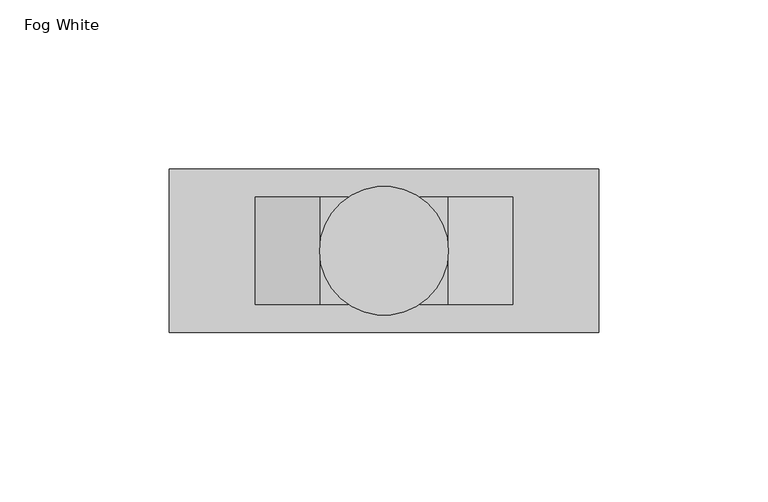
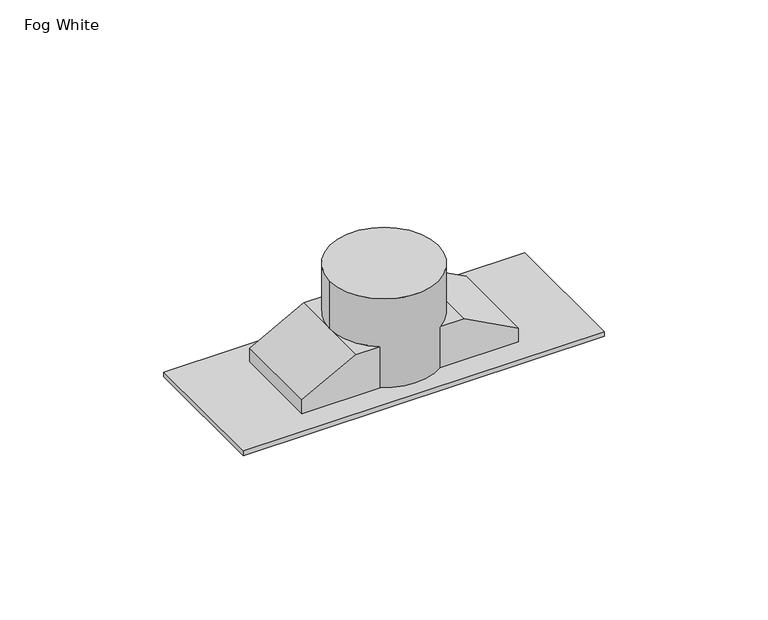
"""IFC4 building model written with IfcOpenShell, lengths in millimetres: proxy geometry, Lamp_Holder-2400_Series-Wiremold : Fog White."""

from ifc_helpers import new_model, si_unit, frame, origin, origin_with_axes, place, context, project, spatial, polyline, circle_curve, outline, extrude, source, transform, mapped, element, save
from ifc_brep_helpers import plane_surface, cylinder_surface, advanced_brep


def fog_white_7784f8a2(model_context):
    return source(origin(), model_context, "Body", "SolidModel", [
        advanced_brep(
        [(-19.05, 0.0, 34.798), (19.05, 0.0, 34.798), (-10.5302837, 15.875, 1.778), (10.5302837, 15.875, 1.778), (38.1, 15.875, 1.778), (38.1, -15.875, 1.778), (10.5302837, -15.875, 1.778), (-10.5302837, -15.875, 1.778), (-38.1, -15.875, 1.778), (-38.1, 15.875, 1.778), (-19.05, 0.0, 17.018), (-10.5302837, -15.875, 17.018), (10.5302837, -15.875, 17.018), (19.05, 0.0, 17.018), (10.5302837, 15.875, 17.018), (-10.5302837, 15.875, 17.018), (-19.05, -15.875, 17.018), (-38.1, -15.875, 6.858), (38.1, -15.875, 6.858), (19.05, -15.875, 17.018), (19.05, 15.875, 17.018), (38.1, 15.875, 6.858), (-38.1, 15.875, 6.858), (-19.05, 15.875, 17.018)],
        [
            (0, 1, circle_curve(frame((0.0, 0.0, 34.798), z_axis=(0.0, 0.0, 1.0), x_axis=(1.0, 0.0, 0.0)), 19.05)),
            (1, 0, circle_curve(frame((0.0, 0.0, 34.798), z_axis=(0.0, 0.0, 1.0), x_axis=(1.0, 0.0, 0.0)), 19.05)),
            (2, 3, circle_curve(frame((0.0, 0.0, 1.778), z_axis=(0.0, 0.0, -1.0), x_axis=(1.0, 0.0, 0.0)), 19.05)),
            (3, 4),
            (4, 5),
            (5, 6),
            (6, 7, circle_curve(frame((0.0, 0.0, 1.778), z_axis=(0.0, 0.0, -1.0), x_axis=(1.0, 0.0, 0.0)), 19.05)),
            (7, 8),
            (8, 9),
            (9, 2),
            (0, 10),
            (10, 11, circle_curve(frame((0.0, 0.0, 17.018), z_axis=(0.0, 0.0, 1.0), x_axis=(1.0, 0.0, 0.0)), 19.05)),
            (11, 7),
            (6, 12),
            (12, 13, circle_curve(frame((0.0, 0.0, 17.018), z_axis=(0.0, 0.0, 1.0), x_axis=(1.0, 0.0, 0.0)), 19.05)),
            (13, 1),
            (13, 14, circle_curve(frame((0.0, 0.0, 17.018), z_axis=(0.0, 0.0, 1.0), x_axis=(1.0, 0.0, 0.0)), 19.05)),
            (14, 3),
            (2, 15),
            (15, 10, circle_curve(frame((0.0, 0.0, 17.018), z_axis=(0.0, 0.0, 1.0), x_axis=(1.0, 0.0, 0.0)), 19.05)),
            (16, 17),
            (17, 8),
            (11, 16),
            (5, 18),
            (18, 19),
            (19, 12),
            (20, 21),
            (21, 4),
            (14, 20),
            (9, 22),
            (22, 23),
            (23, 15),
            (16, 10),
            (10, 23),
            (22, 17),
            (21, 18),
            (20, 13),
            (13, 19),
        ],
        [
            plane_surface(frame((19.05, 0.0, 34.798), z_axis=(0.0, 0.0, 1.0), x_axis=(0.0, 1.0, 0.0))),
            plane_surface(frame((19.05, 0.0, 1.778), z_axis=(0.0, 0.0, -1.0), x_axis=(0.0, -1.0, 0.0))),
            cylinder_surface(frame((0.0, 0.0, 1.778), z_axis=(0.0, 0.0, 1.0), x_axis=(1.0, 0.0, 0.0)), 19.05),
            plane_surface(frame((-38.1, -15.875, 6.858), z_axis=(0.0, -1.0, 0.0), x_axis=(-0.8823529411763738, 0.0, -0.4705882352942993))),
            plane_surface(frame((-38.1, 15.875, 6.858), z_axis=(0.0, 1.0, 0.0), x_axis=(0.8823529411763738, 0.0, 0.4705882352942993))),
            plane_surface(frame((-19.05, -15.875, 17.018), z_axis=(-0.4705882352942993, 0.0, 0.8823529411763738), x_axis=(0.0, 1.0, 0.0))),
            plane_surface(frame((-38.1, -15.875, 6.858), z_axis=(-1.0, 0.0, 0.0), x_axis=(0.0, 1.0, 0.0))),
            plane_surface(frame((38.1, -15.875, 1.778), z_axis=(1.0, 0.0, 0.0), x_axis=(0.0, 1.0, 0.0))),
            plane_surface(frame((38.1, -15.875, 6.858), z_axis=(0.4705882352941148, 0.0, 0.8823529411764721), x_axis=(0.0, 1.0, 0.0))),
            plane_surface(frame((19.05, -15.875, 17.018), z_axis=(0.0, 0.0, 1.0), x_axis=(0.0, 1.0, 0.0))),
        ],
        [
            (0, [[1, 2]]),
            (1, [[3, 4, 5, 6, 7, 8, 9, 10]]),
            (2, [[-1, 11, 12, 13, -7, 14, 15, 16]]),
            (2, [[-2, -16, 17, 18, -3, 19, 20, -11]]),
            (3, [[21, 22, -8, -13, 23]]),
            (3, [[24, 25, 26, -14, -6]]),
            (4, [[27, 28, -4, -18, 29]]),
            (4, [[30, 31, 32, -19, -10]]),
            (5, [[-21, 33, 34, -31, 35]]),
            (6, [[-22, -35, -30, -9]]),
            (7, [[-24, -5, -28, 36]]),
            (8, [[-25, -36, -27, 37, 38]]),
            (9, [[-33, -23, -12]]),
            (9, [[-34, -20, -32]]),
            (9, [[-37, -29, -17]]),
            (9, [[-38, -15, -26]]),
        ],
    ),
        extrude(outline(polyline([(63.5, 24.2062), (63.5, -24.2062), (-63.5, -24.2062), (-63.5, 24.2062), (63.5, 24.2062)])), origin_with_axes(), (0.0, 0.0, 1.0), 1.778),
    ])


if __name__ == "__main__":
    model = new_model("IFC4")
    model_context = context("Model", 3, world=origin())
    ifc_project = project(units=[si_unit("LENGTHUNIT", "METRE", prefix="MILLI")], contexts=[model_context])
    site = spatial("IfcSite", under=ifc_project)
    building = spatial("IfcBuilding", under=site)
    placement = place(None, origin())
    fog_white_shape = fog_white_7784f8a2(model_context)
    element("IfcBuildingElementProxy", 1, Name="Lamp_Holder-2400_Series-Wiremold : Fog White", ObjectType="Lamp_Holder-2400_Series-Wiremold : Fog White", at=placement, inside=building, context=model_context, shape_type="MappedRepresentation", body=[
        mapped(fog_white_shape, transform((0.0, 0.0, 0.0), x_axis=(1.0, 0.0, 0.0), y_axis=(0.0, 1.0, 0.0), z_axis=(0.0, 0.0, 1.0))),
    ])
    save(model, "model.ifc")
